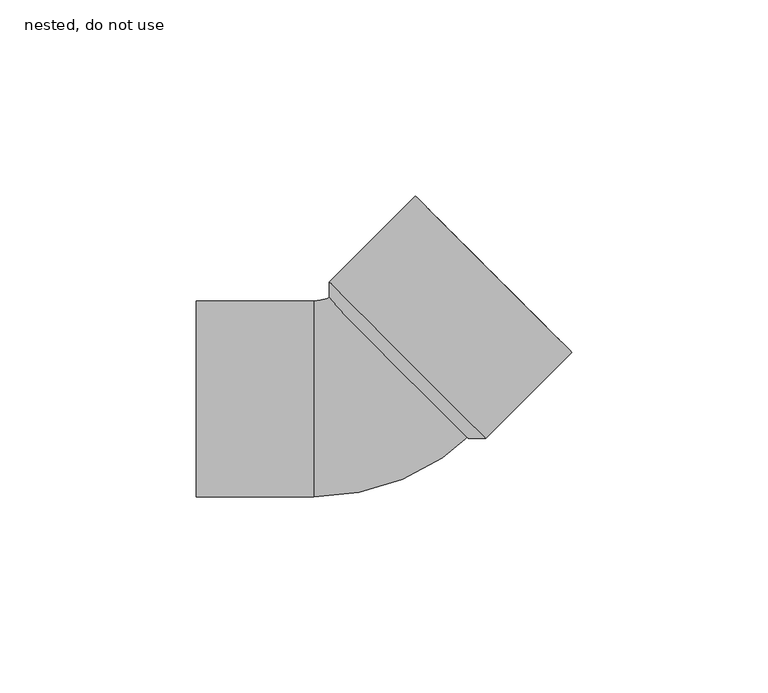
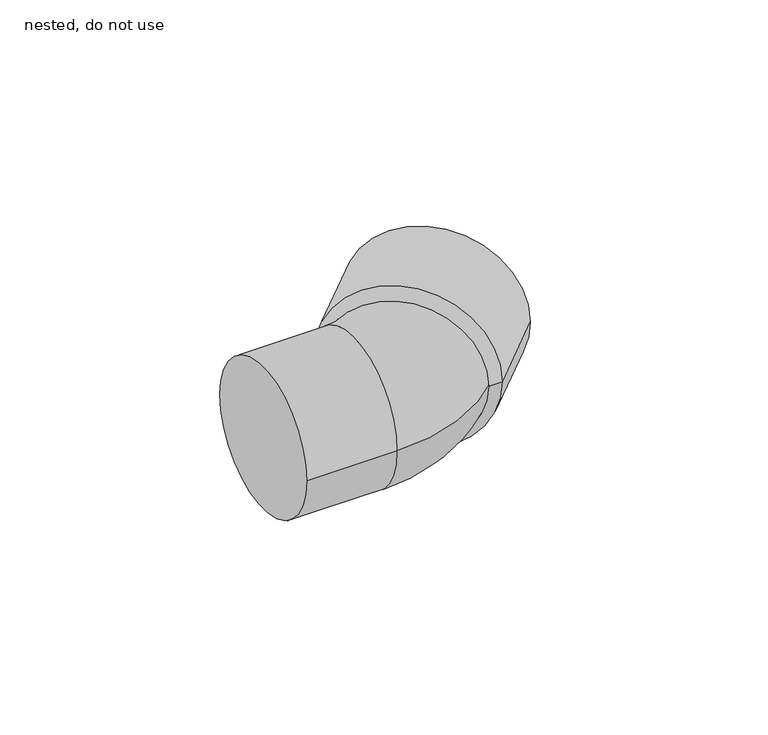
"""IFC4 building model written with IfcOpenShell, lengths in millimetres: pipe fitting geometry, NLRS_52_PIF_UN_Vacurain Flex bocht 1LV_SH_Dyka : nested, do not use."""

from ifc_helpers import new_model, si_unit, point, frame, origin, place, context, project, spatial, polyline, circle_curve, ellipse_curve, trimmed, source, transform, mapped, element, save
from ifc_brep_helpers import plane_surface, cylinder_surface, revolved_surface, advanced_brep


def nested_do_not_use_83d8a7ae(model_context):
    return source(origin(), model_context, "Body", "AdvancedBrep", [
        advanced_brep(
        [(51.7602164, 11.8793939, 0.0), (11.8793939, 51.7602164, 0.0), (14.1421356, 49.4974747, 0.0), (49.4974747, 14.1421356, 0.0), (29.8399062, -10.0409163, 0.0), (-10.0409163, 29.8399062, 0.0), (25.3144228, -10.0409163, 0.0), (-10.0409163, 25.3144228, 0.0)],
        [
            (0, 1, circle_curve(frame((31.8198052, 31.8198052, 0.0), z_axis=(0.7071067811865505, 0.7071067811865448, 0.0), x_axis=(-0.7071067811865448, 0.7071067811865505, 0.0)), 28.2)),
            (1, 2),
            (2, 3, circle_curve(frame((31.8198052, 31.8198052, 0.0), z_axis=(-0.7071067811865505, -0.7071067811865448, 0.0), x_axis=(-0.7071067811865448, 0.7071067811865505, 0.0)), 25.0)),
            (3, 0),
            (1, 0, circle_curve(frame((31.8198052, 31.8198052, 0.0), z_axis=(0.7071067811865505, 0.7071067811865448, 0.0), x_axis=(-0.7071067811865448, 0.7071067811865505, 0.0)), 28.2)),
            (3, 2, circle_curve(frame((31.8198052, 31.8198052, 0.0), z_axis=(-0.7071067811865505, -0.7071067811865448, 0.0), x_axis=(-0.7071067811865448, 0.7071067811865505, 0.0)), 25.0)),
            (4, 5, circle_curve(frame((9.8994949, 9.8994949, 0.0), z_axis=(0.7071067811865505, 0.7071067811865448, 0.0), x_axis=(-0.7071067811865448, 0.7071067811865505, 0.0)), 28.2)),
            (5, 1),
            (0, 4),
            (5, 4, circle_curve(frame((9.8994949, 9.8994949, 0.0), z_axis=(0.7071067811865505, 0.7071067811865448, 0.0), x_axis=(-0.7071067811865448, 0.7071067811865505, 0.0)), 28.2)),
            (6, 7, circle_curve(frame((7.6367532, 7.6367532, 0.0), z_axis=(0.7071067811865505, 0.7071067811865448, 0.0), x_axis=(-0.7071067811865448, 0.7071067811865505, 0.0)), 25.0)),
            (7, 5),
            (4, 6),
            (7, 6, circle_curve(frame((7.6367532, 7.6367532, 0.0), z_axis=(0.7071067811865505, 0.7071067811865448, 0.0), x_axis=(-0.7071067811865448, 0.7071067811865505, 0.0)), 25.0)),
            (2, 7),
            (6, 3),
        ],
        [
            plane_surface(frame((31.8198052, 31.8198052, 0.0), z_axis=(0.7071067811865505, 0.7071067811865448, 0.0), x_axis=(-0.7071067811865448, 0.7071067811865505, 0.0))),
            cylinder_surface(frame((9.8994949, 9.8994949, 0.0), z_axis=(-0.7071067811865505, -0.7071067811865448, 0.0), x_axis=(-0.7071067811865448, 0.7071067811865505, 0.0)), 28.2),
            revolved_surface(polyline([(-10.0409163, 29.8399062, 0.0), (-10.0409163, 25.3144228, 0.0)]), (9.8994949, 9.8994949, 0.0), (-0.7071067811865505, -0.7071067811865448, 0.0)),
            revolved_surface(polyline([(-10.04091632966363, 25.314422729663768, 0.0), (14.142135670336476, 49.49747472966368, 0.0)]), (9.8994949, 9.8994949, 0.0), (-0.7071067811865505, -0.7071067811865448, 0.0)),
        ],
        [
            (0, [[1, 2, 3, 4]]),
            (0, [[5, -4, 6, -2]]),
            (1, [[7, 8, -1, 9]]),
            (1, [[10, -9, -5, -8]]),
            (2, [[11, 12, -7, 13]]),
            (2, [[14, -13, -10, -12]]),
            (3, [[-3, 15, -11, 16]]),
            (3, [[-6, -16, -14, -15]]),
        ],
    ),
        advanced_brep(
        [(-44.0, -25.0, 0.0), (-44.0, 25.0, 0.0), (-14.0, -25.0, 0.0), (-14.0, 25.0, 0.0), (27.5771645, -7.7781746, 0.0), (-7.7781746, 27.5771645, 0.0)],
        [
            (0, 1, circle_curve(frame((-44.0, 0.0, 0.0), z_axis=(-1.0, 0.0, 0.0), x_axis=(0.0, 1.0, 0.0)), 25.0)),
            (1, 0, circle_curve(frame((-44.0, 0.0, 0.0), z_axis=(-1.0, 0.0, 0.0), x_axis=(0.0, 1.0, 0.0)), 25.0)),
            (0, 2),
            (2, 3, circle_curve(frame((-14.0, 0.0, 0.0), z_axis=(-1.0, 0.0, 0.0), x_axis=(0.0, 1.0, 0.0)), 25.0)),
            (3, 1),
            (3, 2, circle_curve(frame((-14.0, 0.0, 0.0), z_axis=(-1.0, 0.0, 0.0), x_axis=(0.0, 1.0, 0.0)), 25.0)),
            (2, 4, circle_curve(frame((-14.0, 33.7989899, 0.0), z_axis=(0.0, 0.0, 1.0), x_axis=(0.0, -1.0, 0.0)), 58.7989899)),
            (4, 5, circle_curve(frame((9.8994949, 9.8994949, 0.0), z_axis=(-0.7071067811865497, -0.7071067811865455, 0.0), x_axis=(-0.7071067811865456, 0.7071067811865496, 0.0)), 25.0)),
            (5, 3, circle_curve(frame((-14.0, 33.7989899, 0.0), z_axis=(0.0, 0.0, -1.0), x_axis=(0.0, -1.0, 0.0)), 8.7989899)),
            (5, 4, circle_curve(frame((9.8994949, 9.8994949, 0.0), z_axis=(-0.7071067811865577, -0.7071067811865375, 0.0), x_axis=(-0.7071067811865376, 0.7071067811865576, 0.0)), 25.0)),
        ],
        [
            plane_surface(frame((-44.0, 0.0, 0.0), z_axis=(-1.0, 0.0, 0.0), x_axis=(0.0, 0.0, 1.0))),
            cylinder_surface(frame((-44.0, 0.0, 0.0), z_axis=(-1.0, 0.0, 0.0), x_axis=(0.0, 1.0, 0.0)), 25.0),
            revolved_surface(trimmed(ellipse_curve(frame((-14.0, 0.0, 0.0), z_axis=(-1.0000000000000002, 0.0, 0.0), x_axis=(0.0, 1.0, 0.0)), 25.0, 25.0), [point((-14.0, -25.0, 0.0))], [point((-14.0, 25.0, 0.0))], True, "CARTESIAN"), (-14.0, 33.7989899, 0.0), (0.0, 0.0, 1.0000000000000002)),
            revolved_surface(trimmed(ellipse_curve(frame((-14.0, 0.0, 0.0), z_axis=(-1.0000000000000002, 0.0, 0.0), x_axis=(0.0, 1.0, 0.0)), 25.0, 25.0), [point((-14.0, 25.0, 0.0))], [point((-14.0, -25.0, 0.0))], True, "CARTESIAN"), (-14.0, 33.7989899, 0.0), (0.0, 0.0, 1.0000000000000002)),
            plane_surface(frame((9.8994949, 9.8994949, 0.0), z_axis=(0.7071067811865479, 0.7071067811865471, 0.0), x_axis=(0.0, 0.0, 1.0))),
        ],
        [
            (0, [[1, 2]]),
            (1, [[-1, 3, 4, 5]]),
            (1, [[-2, -5, 6, -3]]),
            (2, [[-4, 7, 8, 9]]),
            (3, [[-6, -9, 10, -7]]),
            (4, [[-8, -10]]),
        ],
    ),
    ])


if __name__ == "__main__":
    model = new_model("IFC4")
    model_context = context("Model", 3, world=origin())
    ifc_project = project(units=[si_unit("LENGTHUNIT", "METRE", prefix="MILLI")], contexts=[model_context])
    site = spatial("IfcSite", under=ifc_project)
    building = spatial("IfcBuilding", under=site)
    placement = place(None, origin())
    nested_do_not_use_shape = nested_do_not_use_83d8a7ae(model_context)
    element("IfcPipeFitting", 1, ObjectType="NLRS_52_PIF_UN_Vacurain Flex bocht 1LV_SH_Dyka : nested, do not use", at=placement, inside=building, context=model_context, shape_type="MappedRepresentation", body=[
        mapped(nested_do_not_use_shape, transform((0.0, 0.0, 0.0), x_axis=(1.0, 0.0, 0.0), y_axis=(0.0, 1.0, 0.0), z_axis=(0.0, 0.0, 1.0))),
    ])
    save(model, "model.ifc")
